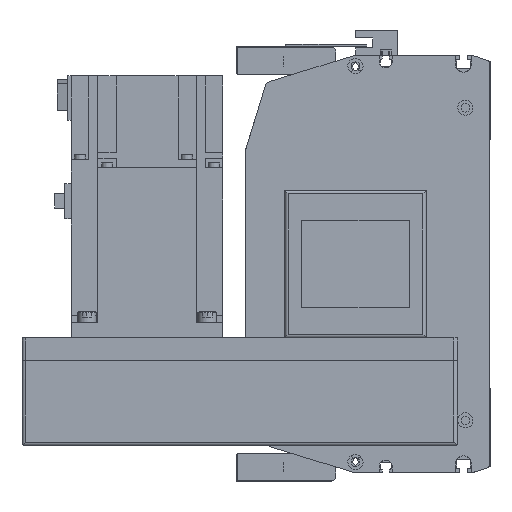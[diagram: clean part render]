
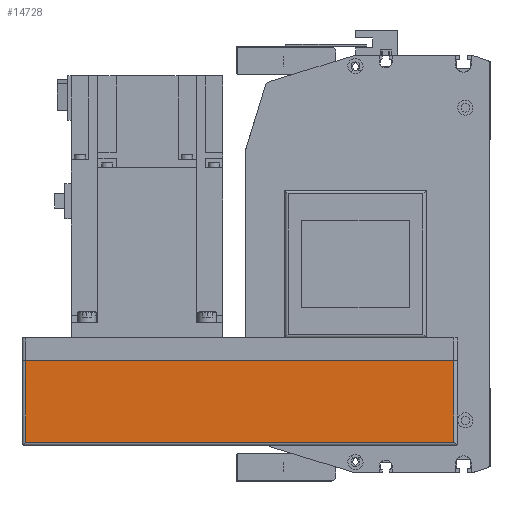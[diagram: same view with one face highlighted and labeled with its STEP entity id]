
A CAD part, left-side view. The second image highlights one B-rep face of the part: STEP entity #14728.
In plain terms, the highlighted planar face has unit normal (-1, 0, 0) as drawn and (0, -1, 0) by its records, which use the part's own axes.
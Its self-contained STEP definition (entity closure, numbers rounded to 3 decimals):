
#2387=ORIENTED_EDGE('',*,*,#5934,.F.);
#2388=ORIENTED_EDGE('',*,*,#5937,.T.);
#2389=ORIENTED_EDGE('',*,*,#5938,.T.);
#2390=ORIENTED_EDGE('',*,*,#5939,.F.);
#5934=EDGE_CURVE('',#7835,#7836,#9363,.T.);
#5937=EDGE_CURVE('',#7835,#7838,#9365,.T.);
#5938=EDGE_CURVE('',#7838,#7839,#9366,.T.);
#5939=EDGE_CURVE('',#7836,#7839,#9367,.T.);
#7835=VERTEX_POINT('',#22941);
#7836=VERTEX_POINT('',#22943);
#7838=VERTEX_POINT('',#22949);
#7839=VERTEX_POINT('',#22951);
#9363=LINE('',#22942,#10712);
#9365=LINE('',#22948,#10714);
#9366=LINE('',#22950,#10715);
#9367=LINE('',#22952,#10716);
#10712=VECTOR('',#18316,1000.);
#10714=VECTOR('',#18322,1000.);
#10715=VECTOR('',#18323,1000.);
#10716=VECTOR('',#18324,1000.);
#11886=EDGE_LOOP('',(#2387,#2388,#2389,#2390));
#13067=FACE_BOUND('',#11886,.T.);
#14104=PLANE('',#15792);
#14728=ADVANCED_FACE('',(#13067),#14104,.T.);
#15792=AXIS2_PLACEMENT_3D('',#22947,#18320,#18321);
#18316=DIRECTION('',(0.,0.,1.));
#18320=DIRECTION('',(0.,-1.,0.));
#18321=DIRECTION('',(0.,0.,-1.));
#18322=DIRECTION('',(1.,0.,0.));
#18323=DIRECTION('',(0.,0.,1.));
#18324=DIRECTION('',(1.,0.,0.));
#22941=CARTESIAN_POINT('',(-228.,-54.,-55.));
#22942=CARTESIAN_POINT('',(-228.,-54.,-57.));
#22943=CARTESIAN_POINT('',(-228.,-54.,-12.));
#22947=CARTESIAN_POINT('',(-228.,-54.,-57.));
#22948=CARTESIAN_POINT('',(-230.,-54.,-55.));
#22949=CARTESIAN_POINT('',(-2.,-54.,-55.));
#22950=CARTESIAN_POINT('',(-2.,-54.,-57.));
#22951=CARTESIAN_POINT('',(-2.,-54.,-12.));
#22952=CARTESIAN_POINT('',(-228.,-54.,-12.));
